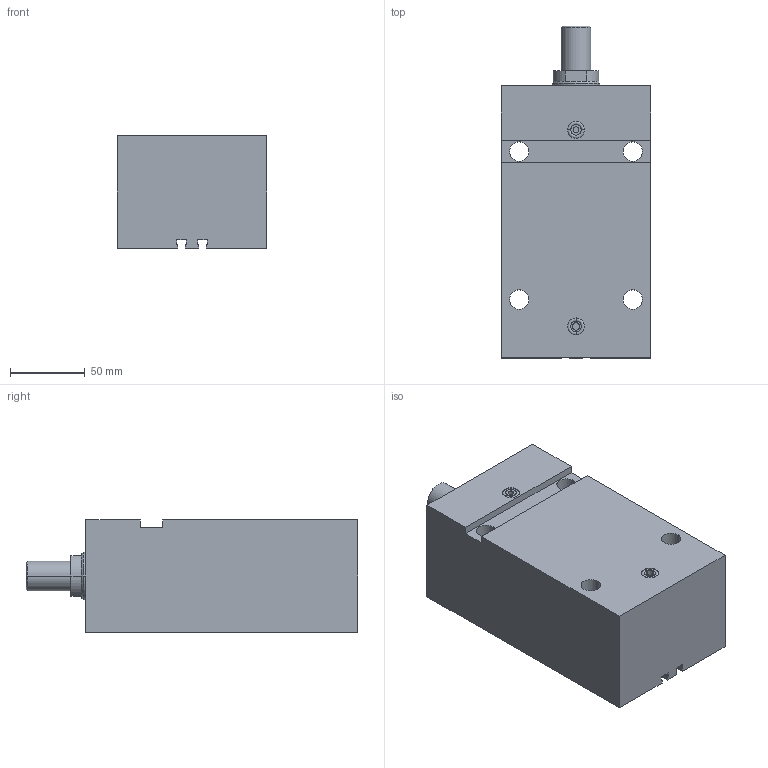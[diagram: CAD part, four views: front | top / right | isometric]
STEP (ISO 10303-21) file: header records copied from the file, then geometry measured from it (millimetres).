
FILE_DESCRIPTION (( 'STEP AP203' ), '1' );
FILE_NAME ('GERMA_Blockzylinder_704-050-100-A.STEP', '2016-07-23T13:31:11', ( '' ), ( '' ), 'SwSTEP 2.0', 'SolidWorks 2015', '' );
FILE_SCHEMA (( 'CONFIG_CONTROL_DESIGN' ));
Length unit declared in the file: millimetre
Products named in the file (3): GERMA_Blockzylinder_704-050-100-A; GH-700-050_GH-704-050-100; Kolben_MT 70x-050_Kolben_MT DU.50-Hub100-AG
Assembly tree (2 placements, depth 2):
  GERMA_Blockzylinder_704-050-100-A
    GH-700-050_GH-704-050-100
    Kolben_MT 70x-050_Kolben_MT DU.50-Hub100-AG
Bounding box: 100 x 222 x 75 mm (x, y, z)
Volume: 1206776.7 mm3; surface area: 147605.7 mm2
Topology: 2 solids, 2 shells, 100 faces, 232 edges, 145 vertices
Faces by surface type: plane 43, cylinder 41, cone 12, torus 4
Entity records: 3142 total; most frequent: DIRECTION 535, CARTESIAN_POINT 478, ORIENTED_EDGE 456, EDGE_CURVE 228, AXIS2_PLACEMENT_3D 202, VERTEX_POINT 145, LINE 131, VECTOR 131
